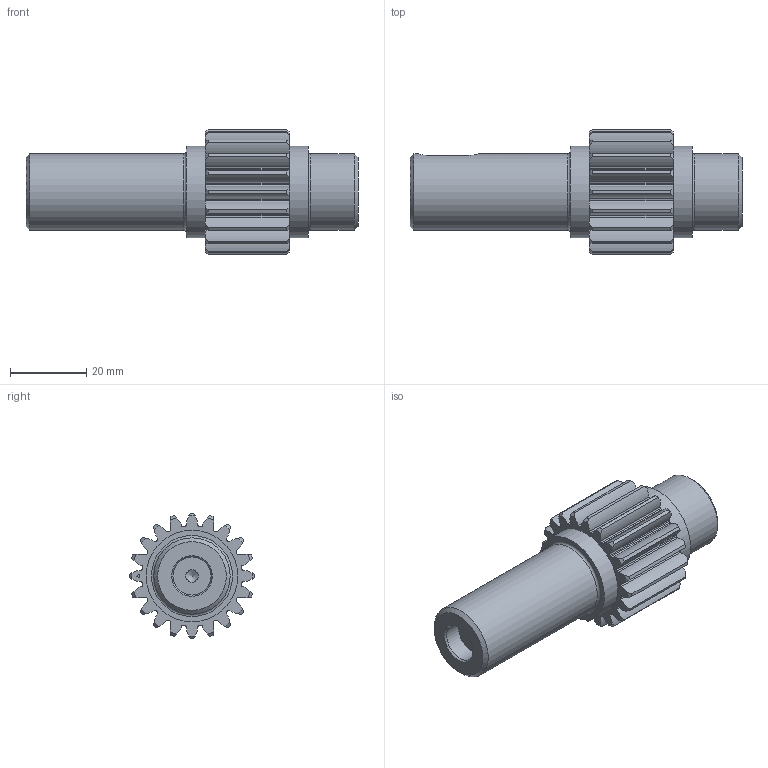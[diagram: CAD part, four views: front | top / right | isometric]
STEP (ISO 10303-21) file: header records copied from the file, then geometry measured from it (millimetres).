
FILE_DESCRIPTION(/* description */ (''),/* implementation_level */ '2;1');
FILE_NAME(/* name */ '',/* time_stamp */ '2026-03-27T11:21:04+09:00',/* author */ ('jhkim'),/* organization */ (''),/* preprocessor_version */ 'ST-DEVELOPER v20.1',/* originating_system */ 'Autodesk Inventor 2026',/* authorisation */ '');
FILE_SCHEMA (('AUTOMOTIVE_DESIGN { 1 0 10303 214 3 1 1 }'));
Length unit declared in the file: millimetre
Products named in the file (1): 기어 축
Bounding box: 87 x 33 x 33 mm (x, y, z)
Volume: 36300.8 mm3; surface area: 9843.1 mm2
Topology: 1 solids, 1 shells, 195 faces, 556 edges, 371 vertices
Faces by surface type: cylinder 129, cone 46, plane 18, torus 2
Full cylindrical faces by diameter (mm): 2 x1, 3.242 x1, 10 x1, 20 x2, 24 x2
Entity records: 6670 total; most frequent: CARTESIAN_POINT 1403, DIRECTION 1169, ORIENTED_EDGE 1108, EDGE_CURVE 554, AXIS2_PLACEMENT_3D 505, VERTEX_POINT 371, CIRCLE 309, EDGE_LOOP 205
